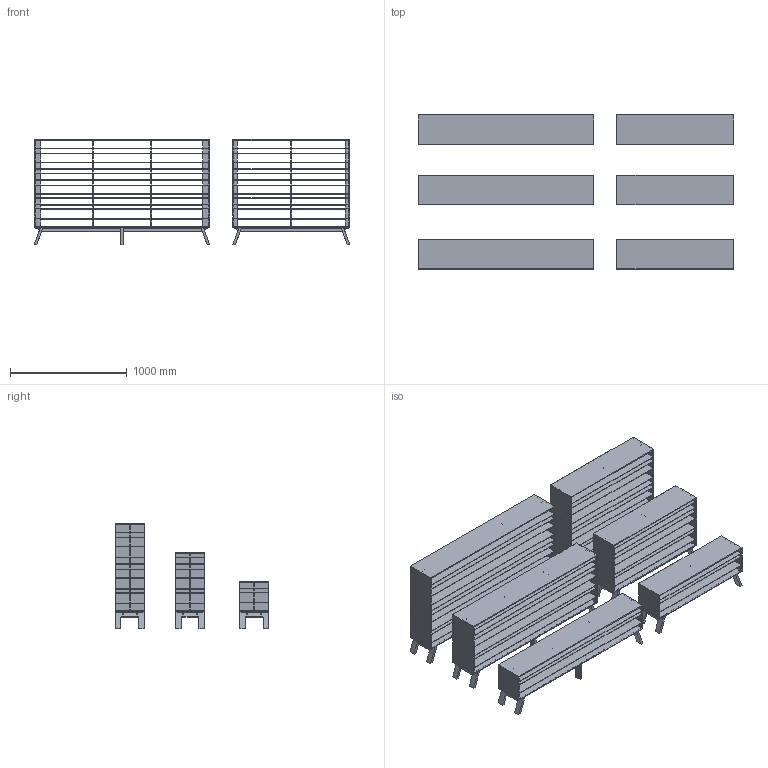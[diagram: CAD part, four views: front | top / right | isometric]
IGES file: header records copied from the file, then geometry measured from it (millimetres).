
Start section: Data from Parasolid IGES Translator 17.0.49, Copyright(c) 2006 Siemens P LM Software. All Rights Reserved.
Global section: file name: Flinter.igs; native system: By Siemens PLM Incorporated; preprocessor: XPlus GENERIC/IGES 17.0.49; author: Noname; organization: Noname; date: 20170620.131125; units: metre
Bounding box: 2698.46 x 1315.78 x 900 mm (x, y, z)
Volume: 121228566.7 mm3; surface area: 41596922.4 mm2
Topology: 12 solids, 12 shells, 1326 faces, 3906 edges, 2604 vertices
Faces by surface type: plane 1248, cylinder 78
